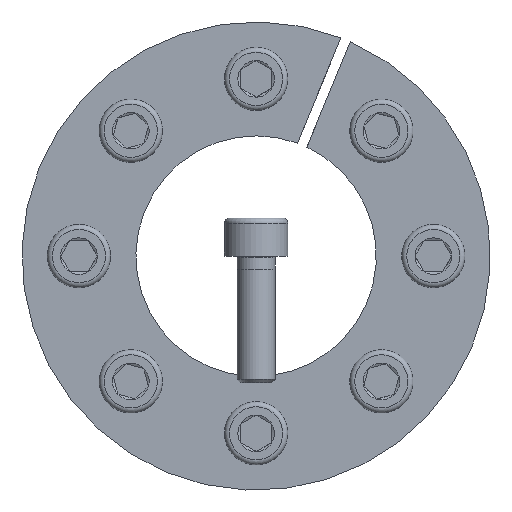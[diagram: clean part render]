
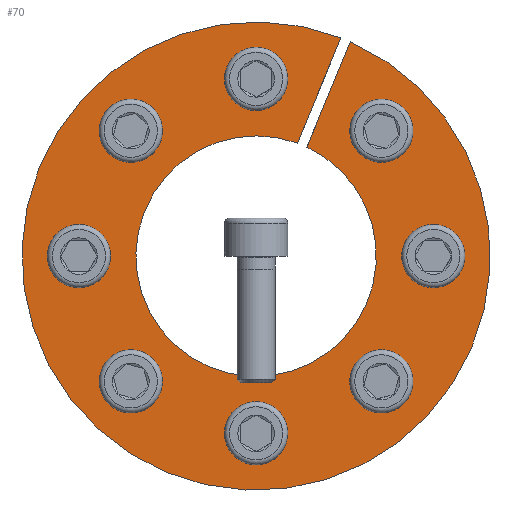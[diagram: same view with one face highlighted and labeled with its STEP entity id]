
A CAD part, front view. The second image highlights one B-rep face of the part: STEP entity #70.
In plain terms, the highlighted planar face has unit normal (0, -1, 0).
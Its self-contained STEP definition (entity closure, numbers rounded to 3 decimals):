
#70 = ADVANCED_FACE( '', ( #157, #158, #159, #160, #161, #162, #163, #164, #165 ), #166, .F. );
#157 = FACE_BOUND( '', #319, .T. );
#158 = FACE_BOUND( '', #320, .T. );
#159 = FACE_BOUND( '', #321, .T. );
#160 = FACE_BOUND( '', #322, .T. );
#161 = FACE_BOUND( '', #323, .T. );
#162 = FACE_BOUND( '', #324, .T. );
#163 = FACE_BOUND( '', #325, .T. );
#164 = FACE_BOUND( '', #326, .T. );
#165 = FACE_OUTER_BOUND( '', #327, .T. );
#166 = PLANE( '', #328 );
#319 = EDGE_LOOP( '', ( #504 ) );
#320 = EDGE_LOOP( '', ( #505 ) );
#321 = EDGE_LOOP( '', ( #506 ) );
#322 = EDGE_LOOP( '', ( #507 ) );
#323 = EDGE_LOOP( '', ( #508 ) );
#324 = EDGE_LOOP( '', ( #509 ) );
#325 = EDGE_LOOP( '', ( #510 ) );
#326 = EDGE_LOOP( '', ( #511 ) );
#327 = EDGE_LOOP( '', ( #512, #513, #514, #515 ) );
#328 = AXIS2_PLACEMENT_3D( '', #516, #517, #518 );
#504 = ORIENTED_EDGE( '', *, *, #801, .T. );
#505 = ORIENTED_EDGE( '', *, *, #802, .T. );
#506 = ORIENTED_EDGE( '', *, *, #803, .T. );
#507 = ORIENTED_EDGE( '', *, *, #804, .T. );
#508 = ORIENTED_EDGE( '', *, *, #805, .T. );
#509 = ORIENTED_EDGE( '', *, *, #806, .T. );
#510 = ORIENTED_EDGE( '', *, *, #807, .T. );
#511 = ORIENTED_EDGE( '', *, *, #808, .T. );
#512 = ORIENTED_EDGE( '', *, *, #809, .T. );
#513 = ORIENTED_EDGE( '', *, *, #810, .T. );
#514 = ORIENTED_EDGE( '', *, *, #811, .T. );
#515 = ORIENTED_EDGE( '', *, *, #812, .F. );
#516 = CARTESIAN_POINT( '', ( 0., 0., 37. ) );
#517 = DIRECTION( '', ( 0., 1., 0. ) );
#518 = DIRECTION( '', ( 0., 0., 1. ) );
#801 = EDGE_CURVE( '', #952, #952, #953, .T. );
#802 = EDGE_CURVE( '', #954, #954, #955, .T. );
#803 = EDGE_CURVE( '', #956, #956, #957, .T. );
#804 = EDGE_CURVE( '', #958, #958, #959, .T. );
#805 = EDGE_CURVE( '', #960, #960, #961, .T. );
#806 = EDGE_CURVE( '', #962, #962, #963, .T. );
#807 = EDGE_CURVE( '', #964, #964, #965, .T. );
#808 = EDGE_CURVE( '', #966, #966, #967, .T. );
#809 = EDGE_CURVE( '', #968, #969, #970, .T. );
#810 = EDGE_CURVE( '', #969, #971, #972, .T. );
#811 = EDGE_CURVE( '', #971, #973, #974, .T. );
#812 = EDGE_CURVE( '', #968, #973, #975, .T. );
#952 = VERTEX_POINT( '', #1239 );
#953 = CIRCLE( '', #1240, 3. );
#954 = VERTEX_POINT( '', #1241 );
#955 = CIRCLE( '', #1242, 3. );
#956 = VERTEX_POINT( '', #1243 );
#957 = CIRCLE( '', #1244, 3. );
#958 = VERTEX_POINT( '', #1245 );
#959 = CIRCLE( '', #1246, 3. );
#960 = VERTEX_POINT( '', #1247 );
#961 = CIRCLE( '', #1248, 3. );
#962 = VERTEX_POINT( '', #1249 );
#963 = CIRCLE( '', #1250, 3. );
#964 = VERTEX_POINT( '', #1251 );
#965 = CIRCLE( '', #1252, 3. );
#966 = VERTEX_POINT( '', #1253 );
#967 = CIRCLE( '', #1254, 3. );
#968 = VERTEX_POINT( '', #1255 );
#969 = VERTEX_POINT( '', #1256 );
#970 = LINE( '', #1257, #1258 );
#971 = VERTEX_POINT( '', #1259 );
#972 = CIRCLE( '', #1260, 37. );
#973 = VERTEX_POINT( '', #1261 );
#974 = LINE( '', #1262, #1263 );
#975 = CIRCLE( '', #1264, 19. );
#1239 = CARTESIAN_POINT( '', ( -17.678, 0., 21.92 ) );
#1240 = AXIS2_PLACEMENT_3D( '', #1443, #1444, #1445 );
#1241 = CARTESIAN_POINT( '', ( -21.92, 0., -17.678 ) );
#1242 = AXIS2_PLACEMENT_3D( '', #1446, #1447, #1448 );
#1243 = CARTESIAN_POINT( '', ( 17.678, 0., -21.92 ) );
#1244 = AXIS2_PLACEMENT_3D( '', #1449, #1450, #1451 );
#1245 = CARTESIAN_POINT( '', ( 21.92, 0., 17.678 ) );
#1246 = AXIS2_PLACEMENT_3D( '', #1452, #1453, #1454 );
#1247 = CARTESIAN_POINT( '', ( 3., 0., 28. ) );
#1248 = AXIS2_PLACEMENT_3D( '', #1455, #1456, #1457 );
#1249 = CARTESIAN_POINT( '', ( 28., 0., -3. ) );
#1250 = AXIS2_PLACEMENT_3D( '', #1458, #1459, #1460 );
#1251 = CARTESIAN_POINT( '', ( -3., 0., -28. ) );
#1252 = AXIS2_PLACEMENT_3D( '', #1461, #1462, #1463 );
#1253 = CARTESIAN_POINT( '', ( -28., 0., 3. ) );
#1254 = AXIS2_PLACEMENT_3D( '', #1464, #1465, #1466 );
#1255 = CARTESIAN_POINT( '', ( 6.514, 0., 17.849 ) );
#1256 = CARTESIAN_POINT( '', ( 13.405, 0., 34.486 ) );
#1257 = CARTESIAN_POINT( '', ( 6.514, 0., 17.849 ) );
#1258 = VECTOR( '', #1467, 1000. );
#1259 = CARTESIAN_POINT( '', ( 14.907, 0., 33.864 ) );
#1260 = AXIS2_PLACEMENT_3D( '', #1468, #1469, #1470 );
#1261 = CARTESIAN_POINT( '', ( 8.015, 0., 17.227 ) );
#1262 = CARTESIAN_POINT( '', ( 14.91, 0., 33.873 ) );
#1263 = VECTOR( '', #1471, 1000. );
#1264 = AXIS2_PLACEMENT_3D( '', #1472, #1473, #1474 );
#1443 = CARTESIAN_POINT( '', ( -19.799, 0., 19.799 ) );
#1444 = DIRECTION( '', ( 0., 1., 0. ) );
#1445 = DIRECTION( '', ( 0.707, 0., 0.707 ) );
#1446 = CARTESIAN_POINT( '', ( -19.799, 0., -19.799 ) );
#1447 = DIRECTION( '', ( 0., 1., 0. ) );
#1448 = DIRECTION( '', ( -0.707, 0., 0.707 ) );
#1449 = CARTESIAN_POINT( '', ( 19.799, 0., -19.799 ) );
#1450 = DIRECTION( '', ( 0., 1., 0. ) );
#1451 = DIRECTION( '', ( -0.707, 0., -0.707 ) );
#1452 = CARTESIAN_POINT( '', ( 19.799, 0., 19.799 ) );
#1453 = DIRECTION( '', ( 0., 1., 0. ) );
#1454 = DIRECTION( '', ( 0.707, 0., -0.707 ) );
#1455 = CARTESIAN_POINT( '', ( 0., 0., 28. ) );
#1456 = DIRECTION( '', ( 0., 1., 0. ) );
#1457 = DIRECTION( '', ( 1., 0., 0. ) );
#1458 = CARTESIAN_POINT( '', ( 28., 0., 0. ) );
#1459 = DIRECTION( '', ( 0., 1., 0. ) );
#1460 = DIRECTION( '', ( 0., 0., -1. ) );
#1461 = CARTESIAN_POINT( '', ( 0., 0., -28. ) );
#1462 = DIRECTION( '', ( 0., 1., 0. ) );
#1463 = DIRECTION( '', ( -1., 0., 0. ) );
#1464 = CARTESIAN_POINT( '', ( -28., 0., 0. ) );
#1465 = DIRECTION( '', ( 0., 1., 0. ) );
#1466 = DIRECTION( '', ( 0., 0., 1. ) );
#1467 = DIRECTION( '', ( 0.383, 0., 0.924 ) );
#1468 = CARTESIAN_POINT( '', ( 0., 0., 0. ) );
#1469 = DIRECTION( '', ( 0., -1., 0. ) );
#1470 = DIRECTION( '', ( 0., 0., -1. ) );
#1471 = DIRECTION( '', ( -0.383, 0., -0.924 ) );
#1472 = CARTESIAN_POINT( '', ( 0., 0., 0. ) );
#1473 = DIRECTION( '', ( 0., -1., 0. ) );
#1474 = DIRECTION( '', ( 0., 0., -1. ) );
